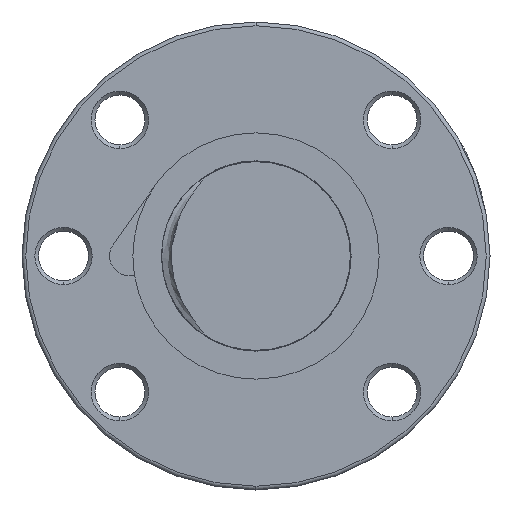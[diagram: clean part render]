
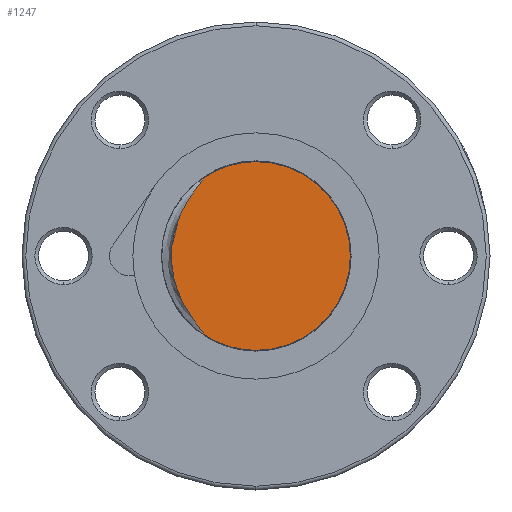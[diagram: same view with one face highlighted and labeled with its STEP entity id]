
A CAD part, left-side view. The second image highlights one B-rep face of the part: STEP entity #1247.
In plain terms, the highlighted planar face has unit normal (-1, 0, 0).
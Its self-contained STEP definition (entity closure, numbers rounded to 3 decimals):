
#29 = CARTESIAN_POINT ( 'NONE',  ( -100., 0., 12.5 ) ) ;
#30 = CARTESIAN_POINT ( 'NONE',  ( -100., 6.887, 10.432 ) ) ;
#80 = CARTESIAN_POINT ( 'NONE',  ( -100., 6.887, -10.432 ) ) ;
#516 = DIRECTION ( 'NONE',  ( 0., 1., 0. ) ) ;
#517 = DIRECTION ( 'NONE',  ( 1., 0., 0. ) ) ;
#518 = AXIS2_PLACEMENT_3D ( 'NONE', #524, #517, #516 ) ;
#519 = CIRCLE ( 'NONE', #518, 12.5 ) ;
#524 = CARTESIAN_POINT ( 'NONE',  ( -100., 0., 0. ) ) ;
#657 = DIRECTION ( 'NONE',  ( 0., 1., 0. ) ) ;
#658 = DIRECTION ( 'NONE',  ( 1., 0., 0. ) ) ;
#659 = CARTESIAN_POINT ( 'NONE',  ( -100., 0., 0. ) ) ;
#660 = AXIS2_PLACEMENT_3D ( 'NONE', #659, #658, #657 ) ;
#661 = CIRCLE ( 'NONE', #660, 12.5 ) ;
#663 = CARTESIAN_POINT ( 'NONE',  ( -100., 0., -12.5 ) ) ;
#1033 = EDGE_CURVE ( 'NONE', #1830, #2015, #3667, .T. ) ;
#1247 = ADVANCED_FACE ( 'NONE', ( #10882 ), #10881, .F. ) ;
#1248 = EDGE_LOOP ( 'NONE', ( #1249, #1250, #1252, #1253 ) ) ;
#1249 = ORIENTED_EDGE ( 'NONE', *, *, #1994, .F. ) ;
#1250 = ORIENTED_EDGE ( 'NONE', *, *, #1251, .T. ) ;
#1251 = EDGE_CURVE ( 'NONE', #1829, #1841, #10874, .T. ) ;
#1252 = ORIENTED_EDGE ( 'NONE', *, *, #2017, .F. ) ;
#1253 = ORIENTED_EDGE ( 'NONE', *, *, #1033, .F. ) ;
#1829 = VERTEX_POINT ( 'NONE', #30 ) ;
#1830 = VERTEX_POINT ( 'NONE', #29 ) ;
#1841 = VERTEX_POINT ( 'NONE', #80 ) ;
#1994 = EDGE_CURVE ( 'NONE', #1829, #1830, #519, .T. ) ;
#2015 = VERTEX_POINT ( 'NONE', #663 ) ;
#2017 = EDGE_CURVE ( 'NONE', #2015, #1841, #661, .T. ) ;
#3655 = DIRECTION ( 'NONE',  ( 0., 1., 0. ) ) ;
#3656 = DIRECTION ( 'NONE',  ( 1., 0., 0. ) ) ;
#3657 = CARTESIAN_POINT ( 'NONE',  ( -100., 0., 0. ) ) ;
#3658 = AXIS2_PLACEMENT_3D ( 'NONE', #3657, #3656, #3655 ) ;
#3667 = CIRCLE ( 'NONE', #3658, 12.5 ) ;
#10758 = CARTESIAN_POINT ( 'NONE',  ( -100., 6.887, -10.432 ) ) ;
#10759 = CARTESIAN_POINT ( 'NONE',  ( -100., 6.934, -10.321 ) ) ;
#10760 = CARTESIAN_POINT ( 'NONE',  ( -100., 6.996, -10.216 ) ) ;
#10761 = CARTESIAN_POINT ( 'NONE',  ( -100., 7.124, -10.013 ) ) ;
#10762 = CARTESIAN_POINT ( 'NONE',  ( -100., 7.193, -9.915 ) ) ;
#10763 = CARTESIAN_POINT ( 'NONE',  ( -100., 7.402, -9.621 ) ) ;
#10764 = CARTESIAN_POINT ( 'NONE',  ( -100., 7.548, -9.43 ) ) ;
#10765 = CARTESIAN_POINT ( 'NONE',  ( -100., 7.982, -8.854 ) ) ;
#10766 = CARTESIAN_POINT ( 'NONE',  ( -100., 8.27, -8.469 ) ) ;
#10767 = CARTESIAN_POINT ( 'NONE',  ( -100., 9.086, -7.287 ) ) ;
#10768 = CARTESIAN_POINT ( 'NONE',  ( -100., 9.571, -6.464 ) ) ;
#10769 = CARTESIAN_POINT ( 'NONE',  ( -100., 10.172, -5.155 ) ) ;
#10770 = CARTESIAN_POINT ( 'NONE',  ( -100., 10.352, -4.703 ) ) ;
#10771 = CARTESIAN_POINT ( 'NONE',  ( -100., 10.662, -3.788 ) ) ;
#10772 = CARTESIAN_POINT ( 'NONE',  ( -100., 10.791, -3.326 ) ) ;
#10852 = CARTESIAN_POINT ( 'NONE',  ( -100., 10.999, -2.392 ) ) ;
#10853 = CARTESIAN_POINT ( 'NONE',  ( -100., 11.079, -1.92 ) ) ;
#10854 = CARTESIAN_POINT ( 'NONE',  ( -100., 11.185, -0.966 ) ) ;
#10855 = CARTESIAN_POINT ( 'NONE',  ( -100., 11.213, -0.481 ) ) ;
#10856 = CARTESIAN_POINT ( 'NONE',  ( -100., 11.212, 0.969 ) ) ;
#10857 = CARTESIAN_POINT ( 'NONE',  ( -100., 11.104, 1.917 ) ) ;
#10858 = CARTESIAN_POINT ( 'NONE',  ( -100., 10.795, 3.313 ) ) ;
#10859 = CARTESIAN_POINT ( 'NONE',  ( -100., 10.666, 3.774 ) ) ;
#10860 = CARTESIAN_POINT ( 'NONE',  ( -100., 10.358, 4.687 ) ) ;
#10861 = CARTESIAN_POINT ( 'NONE',  ( -100., 10.178, 5.14 ) ) ;
#10862 = CARTESIAN_POINT ( 'NONE',  ( -100., 9.578, 6.451 ) ) ;
#10863 = CARTESIAN_POINT ( 'NONE',  ( -100., 9.093, 7.277 ) ) ;
#10864 = CARTESIAN_POINT ( 'NONE',  ( -100., 8.275, 8.463 ) ) ;
#10865 = CARTESIAN_POINT ( 'NONE',  ( -100., 7.986, 8.849 ) ) ;
#10866 = CARTESIAN_POINT ( 'NONE',  ( -100., 7.55, 9.427 ) ) ;
#10867 = CARTESIAN_POINT ( 'NONE',  ( -100., 7.404, 9.619 ) ) ;
#10868 = CARTESIAN_POINT ( 'NONE',  ( -100., 7.194, 9.913 ) ) ;
#10869 = CARTESIAN_POINT ( 'NONE',  ( -100., 7.125, 10.012 ) ) ;
#10870 = CARTESIAN_POINT ( 'NONE',  ( -100., 6.996, 10.216 ) ) ;
#10871 = CARTESIAN_POINT ( 'NONE',  ( -100., 6.934, 10.321 ) ) ;
#10872 = CARTESIAN_POINT ( 'NONE',  ( -100., 6.887, 10.432 ) ) ;
#10874 = B_SPLINE_CURVE_WITH_KNOTS ( 'NONE', 3,
 ( #10872, #10871, #10870, #10869, #10868, #10867, #10866, #10865, #10864, #10863, #10862, #10861, #10860, #10859, #10858, #10857, #10856, #10855, #10854, #10853, #10852, #10772, #10771, #10770, #10769, #10768, #10767, #10766, #10765, #10764, #10763, #10762, #10761, #10760, #10759, #10758 ),
 .UNSPECIFIED., .F., .F.,
 ( 4, 2, 2, 2, 2, 2, 2, 2, 2, 2, 2, 2, 2, 2, 2, 2, 2, 4 ),
 ( 0.008, 0.008, 0.009, 0.009, 0.011, 0.014, 0.015, 0.017, 0.019, 0.021, 0.022, 0.024, 0.025, 0.028, 0.03, 0.03, 0.031, 0.031 ),
 .UNSPECIFIED. ) ;
#10877 = DIRECTION ( 'NONE',  ( 0., 0., -1. ) ) ;
#10878 = DIRECTION ( 'NONE',  ( 1., 0., 0. ) ) ;
#10879 = CARTESIAN_POINT ( 'NONE',  ( -100., 0., 0. ) ) ;
#10880 = AXIS2_PLACEMENT_3D ( 'NONE', #10879, #10878, #10877 ) ;
#10881 = PLANE ( 'NONE',  #10880 ) ;
#10882 = FACE_OUTER_BOUND ( 'NONE', #1248, .T. ) ;
